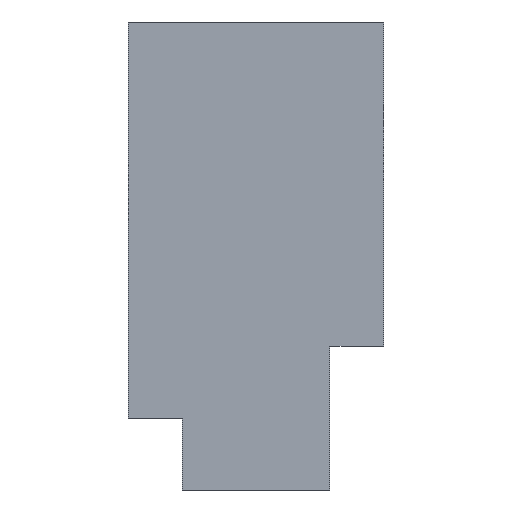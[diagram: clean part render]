
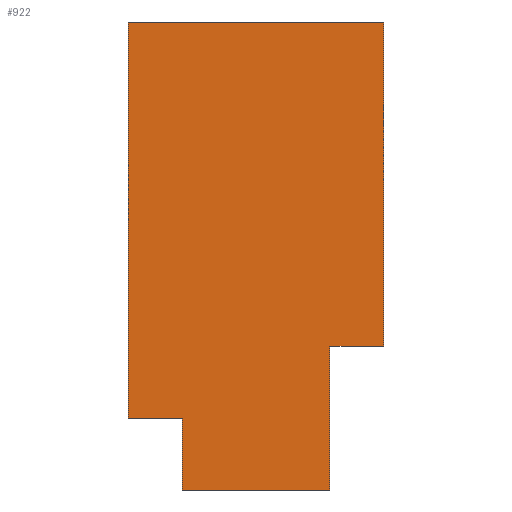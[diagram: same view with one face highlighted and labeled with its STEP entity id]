
A CAD part, front view. The second image highlights one B-rep face of the part: STEP entity #922.
In plain terms, the highlighted planar face has unit normal (0, -1, 0).
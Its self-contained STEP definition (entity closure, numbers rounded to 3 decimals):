
#10 = ORIENTED_EDGE ( 'NONE', *, *, #235, .T. ) ;
#23 = LINE ( 'NONE', #724, #1050 ) ;
#37 = VECTOR ( 'NONE', #153, 1000. ) ;
#84 = VERTEX_POINT ( 'NONE', #272 ) ;
#100 = EDGE_CURVE ( 'NONE', #741, #789, #598, .T. ) ;
#153 = DIRECTION ( 'NONE',  ( 1., 0., 0. ) ) ;
#174 = CARTESIAN_POINT ( 'NONE',  ( 45.5, -35.5, 40. ) ) ;
#178 = CARTESIAN_POINT ( 'NONE',  ( 45.5, -35.5, 40. ) ) ;
#191 = CARTESIAN_POINT ( 'NONE',  ( -25.5, -35.5, 130. ) ) ;
#192 = VERTEX_POINT ( 'NONE', #701 ) ;
#198 = CARTESIAN_POINT ( 'NONE',  ( -10.5, -35.5, 0. ) ) ;
#204 = EDGE_CURVE ( 'NONE', #84, #741, #23, .T. ) ;
#230 = DIRECTION ( 'NONE',  ( 0., 0., -1. ) ) ;
#235 = EDGE_CURVE ( 'NONE', #192, #877, #897, .T. ) ;
#253 = LINE ( 'NONE', #863, #37 ) ;
#268 = DIRECTION ( 'NONE',  ( -1., 0., 0. ) ) ;
#271 = VERTEX_POINT ( 'NONE', #470 ) ;
#272 = CARTESIAN_POINT ( 'NONE',  ( 45.5, -35.5, 130. ) ) ;
#302 = CARTESIAN_POINT ( 'NONE',  ( -10.5, -35.5, 20. ) ) ;
#307 = CARTESIAN_POINT ( 'NONE',  ( -10.5, -35.5, 20. ) ) ;
#312 = DIRECTION ( 'NONE',  ( 0., 0., 1. ) ) ;
#322 = ORIENTED_EDGE ( 'NONE', *, *, #686, .F. ) ;
#329 = ORIENTED_EDGE ( 'NONE', *, *, #100, .F. ) ;
#365 = EDGE_CURVE ( 'NONE', #689, #271, #615, .T. ) ;
#393 = PLANE ( 'NONE',  #982 ) ;
#403 = CARTESIAN_POINT ( 'NONE',  ( -25.5, -35.5, 130. ) ) ;
#415 = LINE ( 'NONE', #500, #558 ) ;
#455 = CARTESIAN_POINT ( 'NONE',  ( 30.5, -35.5, 20. ) ) ;
#463 = ORIENTED_EDGE ( 'NONE', *, *, #365, .T. ) ;
#470 = CARTESIAN_POINT ( 'NONE',  ( 30.5, -35.5, 0. ) ) ;
#500 = CARTESIAN_POINT ( 'NONE',  ( -10.5, -35.5, 20. ) ) ;
#506 = DIRECTION ( 'NONE',  ( 1., 0., 0. ) ) ;
#558 = VECTOR ( 'NONE', #677, 1000. ) ;
#571 = DIRECTION ( 'NONE',  ( 0., 0., 1. ) ) ;
#572 = ORIENTED_EDGE ( 'NONE', *, *, #728, .T. ) ;
#575 = VECTOR ( 'NONE', #268, 1000. ) ;
#585 = ORIENTED_EDGE ( 'NONE', *, *, #973, .F. ) ;
#588 = CARTESIAN_POINT ( 'NONE',  ( -10.5, -35.5, 0. ) ) ;
#598 = LINE ( 'NONE', #178, #575 ) ;
#615 = LINE ( 'NONE', #198, #693 ) ;
#641 = FACE_OUTER_BOUND ( 'NONE', #843, .T. ) ;
#660 = ORIENTED_EDGE ( 'NONE', *, *, #1045, .F. ) ;
#664 = VECTOR ( 'NONE', #571, 1000. ) ;
#677 = DIRECTION ( 'NONE',  ( 0., 0., -1. ) ) ;
#686 = EDGE_CURVE ( 'NONE', #824, #84, #253, .T. ) ;
#689 = VERTEX_POINT ( 'NONE', #588 ) ;
#693 = VECTOR ( 'NONE', #506, 1000. ) ;
#701 = CARTESIAN_POINT ( 'NONE',  ( -25.5, -35.5, 20. ) ) ;
#705 = DIRECTION ( 'NONE',  ( 1., 0., 0. ) ) ;
#719 = DIRECTION ( 'NONE',  ( 0., 1., 0. ) ) ;
#724 = CARTESIAN_POINT ( 'NONE',  ( 45.5, -35.5, 130. ) ) ;
#728 = EDGE_CURVE ( 'NONE', #877, #689, #415, .T. ) ;
#741 = VERTEX_POINT ( 'NONE', #174 ) ;
#773 = CARTESIAN_POINT ( 'NONE',  ( 30.5, -35.5, 40. ) ) ;
#789 = VERTEX_POINT ( 'NONE', #773 ) ;
#813 = LINE ( 'NONE', #455, #1106 ) ;
#814 = DIRECTION ( 'NONE',  ( 0., 0., -1. ) ) ;
#824 = VERTEX_POINT ( 'NONE', #191 ) ;
#843 = EDGE_LOOP ( 'NONE', ( #10, #572, #463, #660, #329, #1064, #322, #585 ) ) ;
#863 = CARTESIAN_POINT ( 'NONE',  ( -10.5, -35.5, 130. ) ) ;
#877 = VERTEX_POINT ( 'NONE', #307 ) ;
#897 = LINE ( 'NONE', #1068, #1085 ) ;
#922 = ADVANCED_FACE ( 'NONE', ( #641 ), #393, .F. ) ;
#973 = EDGE_CURVE ( 'NONE', #192, #824, #1014, .T. ) ;
#982 = AXIS2_PLACEMENT_3D ( 'NONE', #302, #719, #312 ) ;
#1014 = LINE ( 'NONE', #403, #664 ) ;
#1045 = EDGE_CURVE ( 'NONE', #789, #271, #813, .T. ) ;
#1050 = VECTOR ( 'NONE', #814, 1000. ) ;
#1064 = ORIENTED_EDGE ( 'NONE', *, *, #204, .F. ) ;
#1068 = CARTESIAN_POINT ( 'NONE',  ( -25.5, -35.5, 20. ) ) ;
#1085 = VECTOR ( 'NONE', #705, 1000. ) ;
#1106 = VECTOR ( 'NONE', #230, 1000. ) ;
